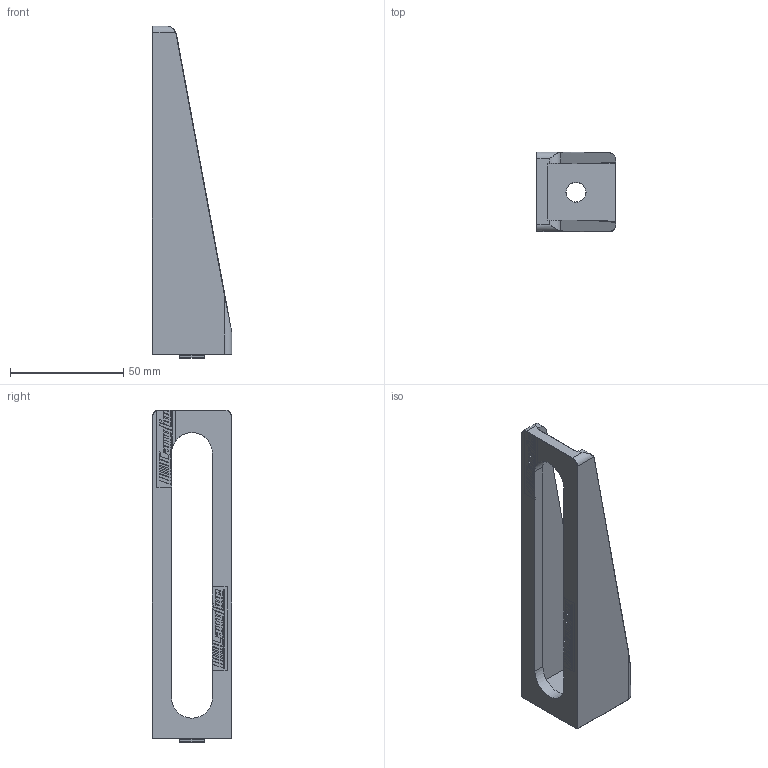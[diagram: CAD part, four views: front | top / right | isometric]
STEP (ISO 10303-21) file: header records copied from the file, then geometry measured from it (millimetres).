
FILE_DESCRIPTION(/* description */ ('ANGLE BRACKET 145MM FOR PHOTOCELL'),/* implementation_level */ '2;1');
FILE_NAME(/* name */ 'X:\Magnus\Hemsidan\STEP filer\STEP-Carryline Standarddelar\Serie 100\300-2910.stp',/* time_stamp */ '2013-12-20T13:01:20+01:00',/* author */ ('Mathias'),/* organization */ ('CARRYLINE'),/* preprocessor_version */ 'ST-DEVELOPER v15.2',/* originating_system */ 'Autodesk Inventor 2014',/* authorisation */ '');
FILE_SCHEMA (('AUTOMOTIVE_DESIGN { 1 0 10303 214 3 1 1 }'));
Length unit declared in the file: millimetre
Products named in the file (1): 300-2910
Bounding box: 35 x 35 x 146.5 mm (x, y, z)
Volume: 45357.5 mm3; surface area: 21063.1 mm2
Topology: 1 solids, 1 shells, 344 faces, 907 edges, 575 vertices
Faces by surface type: plane 266, cylinder 46, bspline 12, torus 12, sphere 8
Full cylindrical faces by diameter (mm): 8.5 x1
Entity records: 10688 total; most frequent: CARTESIAN_POINT 2221, ORIENTED_EDGE 1778, DIRECTION 1665, EDGE_CURVE 889, LINE 753, VECTOR 753, VERTEX_POINT 574, AXIS2_PLACEMENT_3D 456
